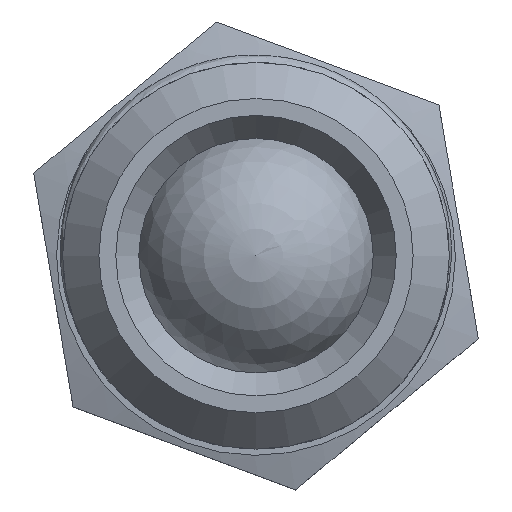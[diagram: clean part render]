
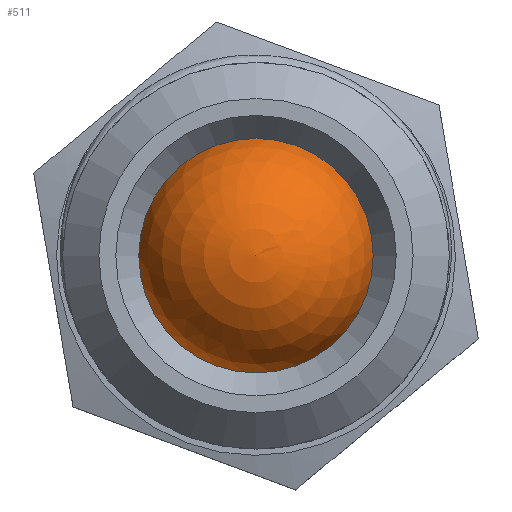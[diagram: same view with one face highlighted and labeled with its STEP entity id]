
A CAD part, top view. The second image highlights one B-rep face of the part: STEP entity #511.
In plain terms, the highlighted spherical face has radius 5 mm.
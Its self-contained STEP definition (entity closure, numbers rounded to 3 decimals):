
#511 = ADVANCED_FACE( '', ( #1121, #1122 ), #1123, .T. );
#1121 = FACE_BOUND( '', #5474, .T. );
#1122 = FACE_OUTER_BOUND( '', #5475, .T. );
#1123 = SPHERICAL_SURFACE( '', #5476, 5. );
#5474 = VERTEX_LOOP( '', #7609 );
#5475 = EDGE_LOOP( '', ( #7610 ) );
#5476 = AXIS2_PLACEMENT_3D( '', #7611, #7612, #7613 );
#7609 = VERTEX_POINT( '', #9627 );
#7610 = ORIENTED_EDGE( '', *, *, #9628, .F. );
#7611 = CARTESIAN_POINT( '', ( 0., 0., 6.5 ) );
#7612 = DIRECTION( '', ( 0., 0., 1. ) );
#7613 = DIRECTION( '', ( 1., 0., 0. ) );
#9627 = CARTESIAN_POINT( '', ( 0., 0., 11.5 ) );
#9628 = EDGE_CURVE( '', #10626, #10626, #10627, .T. );
#10626 = VERTEX_POINT( '', #17988 );
#10627 = CIRCLE( '', #17989, 5. );
#17988 = CARTESIAN_POINT( '', ( -5., 0., 6.5 ) );
#17989 = AXIS2_PLACEMENT_3D( '', #20391, #20392, #20393 );
#20391 = CARTESIAN_POINT( '', ( 0., 0., 6.5 ) );
#20392 = DIRECTION( '', ( 0., 0., -1. ) );
#20393 = DIRECTION( '', ( -1., 0., 0. ) );
